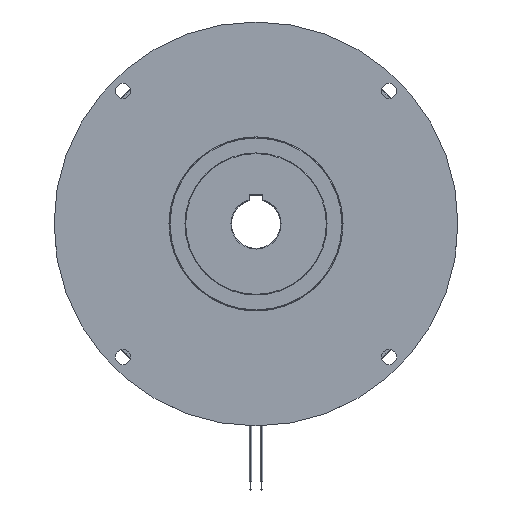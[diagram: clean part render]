
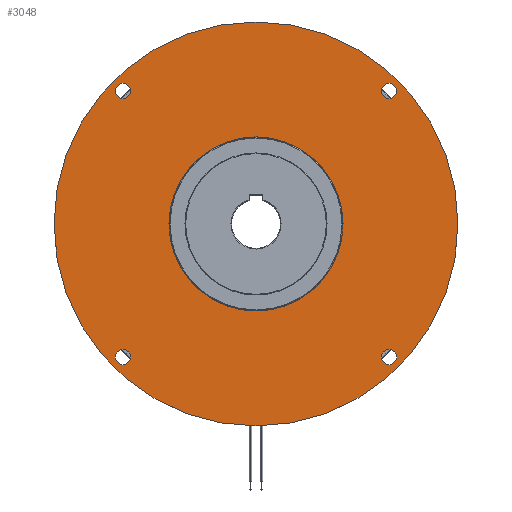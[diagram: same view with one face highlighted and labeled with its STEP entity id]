
A CAD part, top view. The second image highlights one B-rep face of the part: STEP entity #3048.
In plain terms, the highlighted planar face has unit normal (0, 0, 1).
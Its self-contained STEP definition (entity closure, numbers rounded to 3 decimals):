
#3 = EDGE_LOOP ( 'NONE', ( #3162, #9166 ) ) ;
#127 = FACE_BOUND ( 'NONE', #1035, .T. ) ;
#153 = ORIENTED_EDGE ( 'NONE', *, *, #7030, .F. ) ;
#202 = EDGE_CURVE ( 'NONE', #3942, #5686, #6890, .T. ) ;
#368 = VERTEX_POINT ( 'NONE', #8143 ) ;
#400 = CIRCLE ( 'NONE', #8541, 5.5 ) ;
#476 = EDGE_CURVE ( 'NONE', #2141, #5755, #2820, .T. ) ;
#626 = EDGE_LOOP ( 'NONE', ( #8418, #2850 ) ) ;
#631 = EDGE_LOOP ( 'NONE', ( #153, #655 ) ) ;
#655 = ORIENTED_EDGE ( 'NONE', *, *, #476, .F. ) ;
#700 = DIRECTION ( 'NONE',  ( -1., 0., 0. ) ) ;
#796 = FACE_BOUND ( 'NONE', #3, .T. ) ;
#927 = CIRCLE ( 'NONE', #2004, 5.5 ) ;
#1031 = AXIS2_PLACEMENT_3D ( 'NONE', #2216, #4512, #2128 ) ;
#1035 = EDGE_LOOP ( 'NONE', ( #5247, #1964 ) ) ;
#1091 = ORIENTED_EDGE ( 'NONE', *, *, #4602, .T. ) ;
#1163 = DIRECTION ( 'NONE',  ( 0., 0., -1. ) ) ;
#1245 = AXIS2_PLACEMENT_3D ( 'NONE', #6092, #2307, #4367 ) ;
#1367 = DIRECTION ( 'NONE',  ( 0., 0., -1. ) ) ;
#1399 = VERTEX_POINT ( 'NONE', #2971 ) ;
#1428 = CARTESIAN_POINT ( 'NONE',  ( -89.959, 95.459, 0. ) ) ;
#1520 = PLANE ( 'NONE',  #3764 ) ;
#1603 = CARTESIAN_POINT ( 'NONE',  ( -145., 0., 0. ) ) ;
#1660 = EDGE_CURVE ( 'NONE', #9253, #1399, #8170, .T. ) ;
#1794 = CIRCLE ( 'NONE', #7605, 145. ) ;
#1964 = ORIENTED_EDGE ( 'NONE', *, *, #5034, .T. ) ;
#2004 = AXIS2_PLACEMENT_3D ( 'NONE', #5031, #1367, #3592 ) ;
#2128 = DIRECTION ( 'NONE',  ( -1., 0., 0. ) ) ;
#2141 = VERTEX_POINT ( 'NONE', #2903 ) ;
#2168 = DIRECTION ( 'NONE',  ( -1., 0., 0. ) ) ;
#2216 = CARTESIAN_POINT ( 'NONE',  ( 0., 0., 0. ) ) ;
#2260 = CIRCLE ( 'NONE', #3866, 5.5 ) ;
#2307 = DIRECTION ( 'NONE',  ( 0., 0., -1. ) ) ;
#2334 = DIRECTION ( 'NONE',  ( 0., 0., -1. ) ) ;
#2361 = VERTEX_POINT ( 'NONE', #2660 ) ;
#2437 = DIRECTION ( 'NONE',  ( -1., 0., 0. ) ) ;
#2494 = EDGE_CURVE ( 'NONE', #4170, #8464, #400, .T. ) ;
#2660 = CARTESIAN_POINT ( 'NONE',  ( -100.959, -95.459, 0. ) ) ;
#2731 = CARTESIAN_POINT ( 'NONE',  ( 95.459, -95.459, 0. ) ) ;
#2757 = VERTEX_POINT ( 'NONE', #1428 ) ;
#2785 = CARTESIAN_POINT ( 'NONE',  ( 89.959, 95.459, 0. ) ) ;
#2820 = CIRCLE ( 'NONE', #4111, 145. ) ;
#2850 = ORIENTED_EDGE ( 'NONE', *, *, #3295, .T. ) ;
#2903 = CARTESIAN_POINT ( 'NONE',  ( 145., 0., 0. ) ) ;
#2940 = DIRECTION ( 'NONE',  ( 0., 0., -1. ) ) ;
#2947 = DIRECTION ( 'NONE',  ( 0., 0., -1. ) ) ;
#2971 = CARTESIAN_POINT ( 'NONE',  ( 89.959, -95.459, 0. ) ) ;
#3048 = ADVANCED_FACE ( 'NONE', ( #6749, #4640, #6845, #127, #796, #4440 ), #1520, .F. ) ;
#3162 = ORIENTED_EDGE ( 'NONE', *, *, #9349, .T. ) ;
#3295 = EDGE_CURVE ( 'NONE', #2757, #368, #927, .T. ) ;
#3434 = DIRECTION ( 'NONE',  ( 0., 0., -1. ) ) ;
#3540 = CARTESIAN_POINT ( 'NONE',  ( 0., 0., 0. ) ) ;
#3592 = DIRECTION ( 'NONE',  ( -1., 0., 0. ) ) ;
#3764 = AXIS2_PLACEMENT_3D ( 'NONE', #3798, #2947, #6794 ) ;
#3787 = CIRCLE ( 'NONE', #3950, 5.5 ) ;
#3793 = CARTESIAN_POINT ( 'NONE',  ( 0., 0., 0. ) ) ;
#3798 = CARTESIAN_POINT ( 'NONE',  ( 0., 125., 0. ) ) ;
#3831 = CARTESIAN_POINT ( 'NONE',  ( 62.5, 0., 0. ) ) ;
#3866 = AXIS2_PLACEMENT_3D ( 'NONE', #6389, #3986, #2437 ) ;
#3942 = VERTEX_POINT ( 'NONE', #6556 ) ;
#3950 = AXIS2_PLACEMENT_3D ( 'NONE', #8027, #1163, #5064 ) ;
#3986 = DIRECTION ( 'NONE',  ( 0., 0., -1. ) ) ;
#4111 = AXIS2_PLACEMENT_3D ( 'NONE', #3793, #2334, #5471 ) ;
#4170 = VERTEX_POINT ( 'NONE', #5373 ) ;
#4245 = CIRCLE ( 'NONE', #1245, 5.5 ) ;
#4289 = ORIENTED_EDGE ( 'NONE', *, *, #2494, .T. ) ;
#4367 = DIRECTION ( 'NONE',  ( -1., 0., 0. ) ) ;
#4369 = DIRECTION ( 'NONE',  ( -1., 0., 0. ) ) ;
#4440 = FACE_BOUND ( 'NONE', #6104, .T. ) ;
#4512 = DIRECTION ( 'NONE',  ( 0., 0., -1. ) ) ;
#4602 = EDGE_CURVE ( 'NONE', #8464, #4170, #3787, .T. ) ;
#4640 = FACE_OUTER_BOUND ( 'NONE', #631, .T. ) ;
#4823 = CIRCLE ( 'NONE', #5284, 5.5 ) ;
#5031 = CARTESIAN_POINT ( 'NONE',  ( -95.459, 95.459, 0. ) ) ;
#5034 = EDGE_CURVE ( 'NONE', #8000, #2361, #4245, .T. ) ;
#5064 = DIRECTION ( 'NONE',  ( -1., 0., 0. ) ) ;
#5105 = CARTESIAN_POINT ( 'NONE',  ( -95.459, 95.459, 0. ) ) ;
#5247 = ORIENTED_EDGE ( 'NONE', *, *, #8033, .T. ) ;
#5284 = AXIS2_PLACEMENT_3D ( 'NONE', #5105, #7428, #4369 ) ;
#5373 = CARTESIAN_POINT ( 'NONE',  ( 100.959, 95.459, 0. ) ) ;
#5471 = DIRECTION ( 'NONE',  ( -1., 0., 0. ) ) ;
#5552 = CARTESIAN_POINT ( 'NONE',  ( -89.959, -95.459, 0. ) ) ;
#5686 = VERTEX_POINT ( 'NONE', #3831 ) ;
#5755 = VERTEX_POINT ( 'NONE', #1603 ) ;
#6043 = ORIENTED_EDGE ( 'NONE', *, *, #8258, .T. ) ;
#6092 = CARTESIAN_POINT ( 'NONE',  ( -95.459, -95.459, 0. ) ) ;
#6104 = EDGE_LOOP ( 'NONE', ( #1091, #4289 ) ) ;
#6199 = DIRECTION ( 'NONE',  ( -1., 0., 0. ) ) ;
#6253 = DIRECTION ( 'NONE',  ( 0., 0., -1. ) ) ;
#6389 = CARTESIAN_POINT ( 'NONE',  ( -95.459, -95.459, 0. ) ) ;
#6556 = CARTESIAN_POINT ( 'NONE',  ( -62.5, 0., 0. ) ) ;
#6613 = CARTESIAN_POINT ( 'NONE',  ( 0., 0., 0. ) ) ;
#6749 = FACE_BOUND ( 'NONE', #7182, .T. ) ;
#6794 = DIRECTION ( 'NONE',  ( -1., 0., 0. ) ) ;
#6845 = FACE_BOUND ( 'NONE', #626, .T. ) ;
#6890 = CIRCLE ( 'NONE', #7041, 62.5 ) ;
#6923 = CARTESIAN_POINT ( 'NONE',  ( 95.459, 95.459, 0. ) ) ;
#7030 = EDGE_CURVE ( 'NONE', #5755, #2141, #1794, .T. ) ;
#7041 = AXIS2_PLACEMENT_3D ( 'NONE', #6613, #8160, #9594 ) ;
#7182 = EDGE_LOOP ( 'NONE', ( #7723, #6043 ) ) ;
#7347 = CARTESIAN_POINT ( 'NONE',  ( 95.459, -95.459, 0. ) ) ;
#7385 = DIRECTION ( 'NONE',  ( 0., 0., -1. ) ) ;
#7428 = DIRECTION ( 'NONE',  ( 0., 0., -1. ) ) ;
#7605 = AXIS2_PLACEMENT_3D ( 'NONE', #3540, #3434, #9465 ) ;
#7723 = ORIENTED_EDGE ( 'NONE', *, *, #202, .T. ) ;
#7840 = CARTESIAN_POINT ( 'NONE',  ( 100.959, -95.459, 0. ) ) ;
#7841 = AXIS2_PLACEMENT_3D ( 'NONE', #7347, #7385, #2168 ) ;
#7852 = AXIS2_PLACEMENT_3D ( 'NONE', #2731, #2940, #700 ) ;
#8000 = VERTEX_POINT ( 'NONE', #5552 ) ;
#8027 = CARTESIAN_POINT ( 'NONE',  ( 95.459, 95.459, 0. ) ) ;
#8033 = EDGE_CURVE ( 'NONE', #2361, #8000, #2260, .T. ) ;
#8143 = CARTESIAN_POINT ( 'NONE',  ( -100.959, 95.459, 0. ) ) ;
#8160 = DIRECTION ( 'NONE',  ( 0., 0., -1. ) ) ;
#8170 = CIRCLE ( 'NONE', #7841, 5.5 ) ;
#8258 = EDGE_CURVE ( 'NONE', #5686, #3942, #9491, .T. ) ;
#8418 = ORIENTED_EDGE ( 'NONE', *, *, #8759, .T. ) ;
#8464 = VERTEX_POINT ( 'NONE', #2785 ) ;
#8541 = AXIS2_PLACEMENT_3D ( 'NONE', #6923, #6253, #6199 ) ;
#8759 = EDGE_CURVE ( 'NONE', #368, #2757, #4823, .T. ) ;
#8965 = CIRCLE ( 'NONE', #7852, 5.5 ) ;
#9166 = ORIENTED_EDGE ( 'NONE', *, *, #1660, .T. ) ;
#9253 = VERTEX_POINT ( 'NONE', #7840 ) ;
#9349 = EDGE_CURVE ( 'NONE', #1399, #9253, #8965, .T. ) ;
#9465 = DIRECTION ( 'NONE',  ( -1., 0., 0. ) ) ;
#9491 = CIRCLE ( 'NONE', #1031, 62.5 ) ;
#9594 = DIRECTION ( 'NONE',  ( -1., 0., 0. ) ) ;
